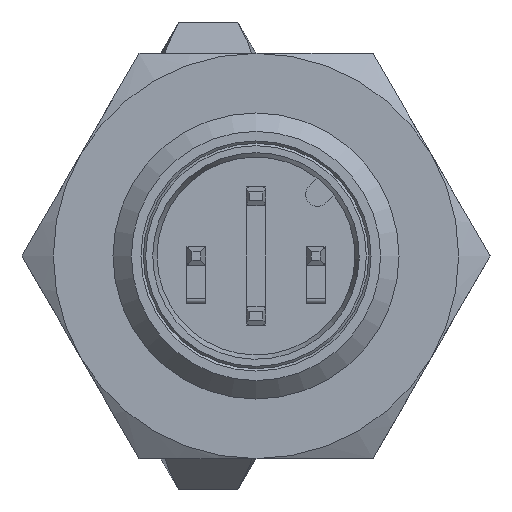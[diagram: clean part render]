
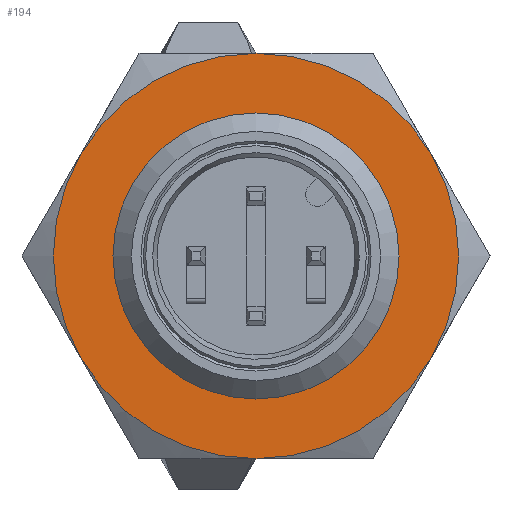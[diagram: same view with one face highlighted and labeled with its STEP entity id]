
A CAD part, left-side view. The second image highlights one B-rep face of the part: STEP entity #194.
In plain terms, the highlighted planar face has unit normal (-1, 0, 0) as drawn and (0, -1, 0) by its records, which use the part's own axes.
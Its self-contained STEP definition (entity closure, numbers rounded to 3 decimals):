
#194 = ADVANCED_FACE( '', ( #335, #336 ), #337, .F. );
#335 = FACE_BOUND( '', #615, .T. );
#336 = FACE_OUTER_BOUND( '', #616, .T. );
#337 = PLANE( '', #617 );
#615 = EDGE_LOOP( '', ( #975 ) );
#616 = EDGE_LOOP( '', ( #976, #977, #978, #979, #980, #981 ) );
#617 = AXIS2_PLACEMENT_3D( '', #982, #983, #984 );
#975 = ORIENTED_EDGE( '', *, *, #1872, .F. );
#976 = ORIENTED_EDGE( '', *, *, #1868, .F. );
#977 = ORIENTED_EDGE( '', *, *, #1870, .F. );
#978 = ORIENTED_EDGE( '', *, *, #1873, .F. );
#979 = ORIENTED_EDGE( '', *, *, #1874, .F. );
#980 = ORIENTED_EDGE( '', *, *, #1869, .F. );
#981 = ORIENTED_EDGE( '', *, *, #1866, .F. );
#982 = CARTESIAN_POINT( '', ( 8.5, 0., 14.722 ) );
#983 = DIRECTION( '', ( 0., 1., 0. ) );
#984 = DIRECTION( '', ( 0., 0., 1. ) );
#1866 = EDGE_CURVE( '', #2178, #2171, #2195, .T. );
#1868 = EDGE_CURVE( '', #2196, #2178, #2198, .T. );
#1869 = EDGE_CURVE( '', #2171, #2192, #2199, .T. );
#1870 = EDGE_CURVE( '', #2156, #2196, #2200, .T. );
#1872 = EDGE_CURVE( '', #2202, #2202, #2203, .T. );
#1873 = EDGE_CURVE( '', #2147, #2156, #2204, .T. );
#1874 = EDGE_CURVE( '', #2192, #2147, #2205, .T. );
#2147 = VERTEX_POINT( '', #2651 );
#2156 = VERTEX_POINT( '', #2685 );
#2171 = VERTEX_POINT( '', #2731 );
#2178 = VERTEX_POINT( '', #2758 );
#2192 = VERTEX_POINT( '', #2794 );
#2195 = CIRCLE( '', #2807, 8.5 );
#2196 = VERTEX_POINT( '', #2808 );
#2198 = CIRCLE( '', #2815, 8.5 );
#2199 = CIRCLE( '', #2816, 8.5 );
#2200 = CIRCLE( '', #2817, 8.5 );
#2202 = VERTEX_POINT( '', #2824 );
#2203 = CIRCLE( '', #2825, 5.459 );
#2204 = CIRCLE( '', #2826, 8.5 );
#2205 = CIRCLE( '', #2827, 8.5 );
#2651 = CARTESIAN_POINT( '', ( -4.25, 0., 7.361 ) );
#2685 = CARTESIAN_POINT( '', ( 4.25, 0., 7.361 ) );
#2731 = CARTESIAN_POINT( '', ( -4.25, 0., -7.361 ) );
#2758 = CARTESIAN_POINT( '', ( 4.25, 0., -7.361 ) );
#2794 = CARTESIAN_POINT( '', ( -8.5, 0., 0. ) );
#2807 = AXIS2_PLACEMENT_3D( '', #3662, #3663, #3664 );
#2808 = CARTESIAN_POINT( '', ( 8.5, 0., 0. ) );
#2815 = AXIS2_PLACEMENT_3D( '', #3665, #3666, #3667 );
#2816 = AXIS2_PLACEMENT_3D( '', #3668, #3669, #3670 );
#2817 = AXIS2_PLACEMENT_3D( '', #3671, #3672, #3673 );
#2824 = CARTESIAN_POINT( '', ( 5.459, 0., 0. ) );
#2825 = AXIS2_PLACEMENT_3D( '', #3674, #3675, #3676 );
#2826 = AXIS2_PLACEMENT_3D( '', #3677, #3678, #3679 );
#2827 = AXIS2_PLACEMENT_3D( '', #3680, #3681, #3682 );
#3662 = CARTESIAN_POINT( '', ( 0., 0., 0. ) );
#3663 = DIRECTION( '', ( 0., 1., 0. ) );
#3664 = DIRECTION( '', ( 0., 0., 1. ) );
#3665 = CARTESIAN_POINT( '', ( 0., 0., 0. ) );
#3666 = DIRECTION( '', ( 0., 1., 0. ) );
#3667 = DIRECTION( '', ( 0., 0., 1. ) );
#3668 = CARTESIAN_POINT( '', ( 0., 0., 0. ) );
#3669 = DIRECTION( '', ( 0., 1., 0. ) );
#3670 = DIRECTION( '', ( 0., 0., 1. ) );
#3671 = CARTESIAN_POINT( '', ( 0., 0., 0. ) );
#3672 = DIRECTION( '', ( 0., 1., 0. ) );
#3673 = DIRECTION( '', ( 0., 0., 1. ) );
#3674 = CARTESIAN_POINT( '', ( 0., 0., 0. ) );
#3675 = DIRECTION( '', ( 0., -1., 0. ) );
#3676 = DIRECTION( '', ( 1., 0., 0. ) );
#3677 = CARTESIAN_POINT( '', ( 0., 0., 0. ) );
#3678 = DIRECTION( '', ( 0., 1., 0. ) );
#3679 = DIRECTION( '', ( 0., 0., 1. ) );
#3680 = CARTESIAN_POINT( '', ( 0., 0., 0. ) );
#3681 = DIRECTION( '', ( 0., 1., 0. ) );
#3682 = DIRECTION( '', ( 0., 0., 1. ) );
